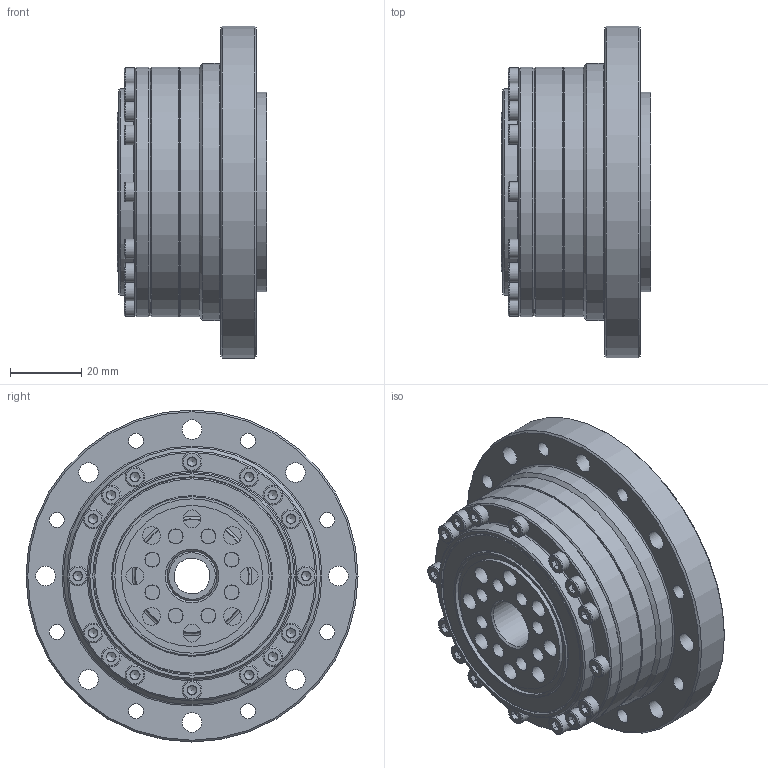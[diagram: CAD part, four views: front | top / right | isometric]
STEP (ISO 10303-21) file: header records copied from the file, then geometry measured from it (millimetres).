
FILE_DESCRIPTION (( 'STEP AP203' ), '1' );
FILE_NAME ('LCSG-20-XXX-C-I-S0A-D1.STEP', '2025-06-17T08:18:16', ( '' ), ( '' ), 'SwSTEP 2.0', 'SolidWorks 2023', '' );
FILE_SCHEMA (( 'CONFIG_CONTROL_DESIGN' ));
Length unit declared in the file: millimetre
Products named in the file (1): LCSG-20-XXX-C-I-S0A-D1
Bounding box: 42 x 93 x 93 mm (x, y, z)
Volume: 128205.9 mm3; surface area: 91926.5 mm2
Topology: 63 solids, 63 shells, 1061 faces, 2449 edges, 1517 vertices
Faces by surface type: plane 550, cylinder 268, cone 143, torus 77, sphere 23
Full cylindrical faces by diameter (mm): 2.05 x4, 2.5 x20, 2.9 x4, 3 x16, 3.3 x4, 3.4 x28, 4.2 x16, 4.5 x4, 4.7 x4, 5 x16, 5.5 x40, 8.5 x8, 10 x1, 14 x3, 20 x3, 32 x1, 34 x3, 36 x1, 37 x1, 37.6 x1, 38.5 x1, 39.499 x2, 39.5 x1, 40.17 x1, 42.5 x1, 43.2 x1, 45 x1, 45.546 x1, 46.83 x1, 47.507 x2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
Entity records: 26887 total; most frequent: DIRECTION 4932, CARTESIAN_POINT 4494, ORIENTED_EDGE 3742, AXIS2_PLACEMENT_3D 2055, EDGE_CURVE 1871, EDGE_LOOP 1710, VERTEX_POINT 1369, FACE_OUTER_BOUND 1336
